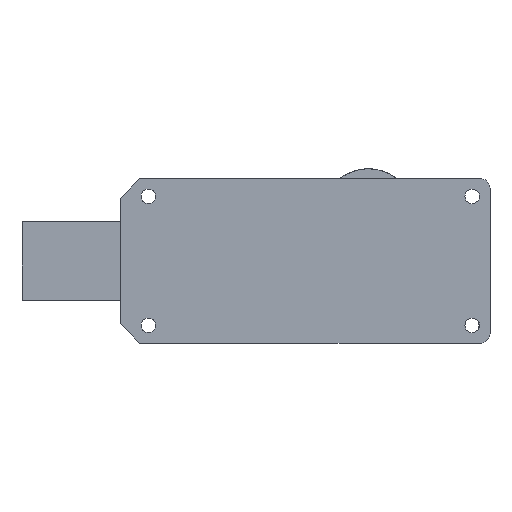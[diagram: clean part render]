
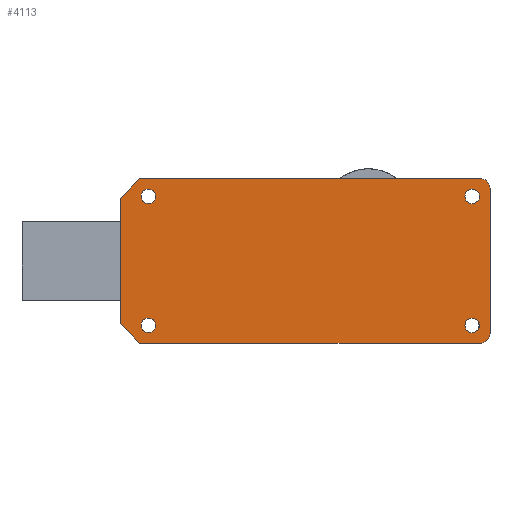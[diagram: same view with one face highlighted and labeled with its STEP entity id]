
A CAD part, front view. The second image highlights one B-rep face of the part: STEP entity #4113.
In plain terms, the highlighted planar face has unit normal (0, -1, 0).
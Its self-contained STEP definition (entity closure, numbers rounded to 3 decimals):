
#3770=CARTESIAN_POINT('',(26.6,-0.81,-11.));
#3771=DIRECTION('',(0.,-1.,0.));
#3772=DIRECTION('',(0.,0.,-1.));
#3773=AXIS2_PLACEMENT_3D('',#3770,#3771,#3772);
#3775=DIRECTION('',(1.,0.,0.));
#3776=VECTOR('',#3775,51.7);
#3777=CARTESIAN_POINT('',(-25.1,-0.81,-12.5));
#3778=LINE('',#3777,#3776);
#3779=DIRECTION('',(0.707,0.,-0.707));
#3780=VECTOR('',#3779,4.243);
#3781=CARTESIAN_POINT('',(-28.1,-0.81,-9.5));
#3782=LINE('',#3781,#3780);
#3783=DIRECTION('',(0.,0.,-1.));
#3784=VECTOR('',#3783,19.);
#3785=CARTESIAN_POINT('',(-28.1,-0.81,9.5));
#3786=LINE('',#3785,#3784);
#3787=DIRECTION('',(-0.707,0.,-0.707));
#3788=VECTOR('',#3787,4.243);
#3789=CARTESIAN_POINT('',(-25.1,-0.81,12.5));
#3790=LINE('',#3789,#3788);
#3791=DIRECTION('',(-1.,0.,0.));
#3792=VECTOR('',#3791,51.7);
#3793=CARTESIAN_POINT('',(26.6,-0.81,12.5));
#3794=LINE('',#3793,#3792);
#3795=CARTESIAN_POINT('',(26.6,-0.81,11.));
#3796=DIRECTION('',(0.,-1.,0.));
#3797=DIRECTION('',(1.,0.,0.));
#3798=AXIS2_PLACEMENT_3D('',#3795,#3796,#3797);
#3800=DIRECTION('',(0.,0.,1.));
#3801=VECTOR('',#3800,22.);
#3802=CARTESIAN_POINT('',(28.1,-0.81,-11.));
#3803=LINE('',#3802,#3801);
#3804=CARTESIAN_POINT('',(-23.8,-0.81,-9.8));
#3805=DIRECTION('',(0.,1.,0.));
#3806=DIRECTION('',(1.,0.,0.));
#3807=AXIS2_PLACEMENT_3D('',#3804,#3805,#3806);
#3809=CARTESIAN_POINT('',(-23.8,-0.81,-9.8));
#3810=DIRECTION('',(0.,1.,0.));
#3811=DIRECTION('',(-1.,0.,0.));
#3812=AXIS2_PLACEMENT_3D('',#3809,#3810,#3811);
#3814=CARTESIAN_POINT('',(-23.8,-0.81,9.8));
#3815=DIRECTION('',(0.,1.,0.));
#3816=DIRECTION('',(1.,0.,0.));
#3817=AXIS2_PLACEMENT_3D('',#3814,#3815,#3816);
#3819=CARTESIAN_POINT('',(-23.8,-0.81,9.8));
#3820=DIRECTION('',(0.,1.,0.));
#3821=DIRECTION('',(-1.,0.,0.));
#3822=AXIS2_PLACEMENT_3D('',#3819,#3820,#3821);
#3824=CARTESIAN_POINT('',(25.4,-0.81,-9.8));
#3825=DIRECTION('',(0.,1.,0.));
#3826=DIRECTION('',(1.,0.,0.));
#3827=AXIS2_PLACEMENT_3D('',#3824,#3825,#3826);
#3829=CARTESIAN_POINT('',(25.4,-0.81,-9.8));
#3830=DIRECTION('',(0.,1.,0.));
#3831=DIRECTION('',(-1.,0.,0.));
#3832=AXIS2_PLACEMENT_3D('',#3829,#3830,#3831);
#3834=CARTESIAN_POINT('',(25.4,-0.81,9.8));
#3835=DIRECTION('',(0.,1.,0.));
#3836=DIRECTION('',(1.,0.,0.));
#3837=AXIS2_PLACEMENT_3D('',#3834,#3835,#3836);
#3839=CARTESIAN_POINT('',(25.4,-0.81,9.8));
#3840=DIRECTION('',(0.,1.,0.));
#3841=DIRECTION('',(-1.,0.,0.));
#3842=AXIS2_PLACEMENT_3D('',#3839,#3840,#3841);
#3975=CARTESIAN_POINT('',(-22.7,-0.81,-9.8));
#3977=VERTEX_POINT('',#3975);
#3979=CARTESIAN_POINT('',(-24.9,-0.81,-9.8));
#3981=VERTEX_POINT('',#3979);
#3983=CARTESIAN_POINT('',(-22.7,-0.81,9.8));
#3985=VERTEX_POINT('',#3983);
#3987=CARTESIAN_POINT('',(-24.9,-0.81,9.8));
#3989=VERTEX_POINT('',#3987);
#3991=CARTESIAN_POINT('',(26.5,-0.81,-9.8));
#3993=VERTEX_POINT('',#3991);
#3995=CARTESIAN_POINT('',(24.3,-0.81,-9.8));
#3997=VERTEX_POINT('',#3995);
#3999=CARTESIAN_POINT('',(26.5,-0.81,9.8));
#4001=VERTEX_POINT('',#3999);
#4003=CARTESIAN_POINT('',(24.3,-0.81,9.8));
#4005=VERTEX_POINT('',#4003);
#4022=CARTESIAN_POINT('',(26.6,-0.81,-12.5));
#4023=CARTESIAN_POINT('',(28.1,-0.81,-11.));
#4024=VERTEX_POINT('',#4022);
#4025=VERTEX_POINT('',#4023);
#4026=CARTESIAN_POINT('',(28.1,-0.81,11.));
#4027=VERTEX_POINT('',#4026);
#4028=CARTESIAN_POINT('',(26.6,-0.81,12.5));
#4029=VERTEX_POINT('',#4028);
#4030=CARTESIAN_POINT('',(-25.1,-0.81,12.5));
#4031=VERTEX_POINT('',#4030);
#4032=CARTESIAN_POINT('',(-28.1,-0.81,9.5));
#4033=VERTEX_POINT('',#4032);
#4034=CARTESIAN_POINT('',(-28.1,-0.81,-9.5));
#4035=VERTEX_POINT('',#4034);
#4036=CARTESIAN_POINT('',(-25.1,-0.81,-12.5));
#4037=VERTEX_POINT('',#4036);
#4068=CARTESIAN_POINT('',(0.,-0.81,0.));
#4069=DIRECTION('',(0.,-1.,0.));
#4070=DIRECTION('',(1.,0.,0.));
#4071=AXIS2_PLACEMENT_3D('',#4068,#4069,#4070);
#4072=PLANE('',#4071);
#4074=ORIENTED_EDGE('',*,*,#4073,.F.);
#4076=ORIENTED_EDGE('',*,*,#4075,.F.);
#4078=ORIENTED_EDGE('',*,*,#4077,.F.);
#4080=ORIENTED_EDGE('',*,*,#4079,.F.);
#4082=ORIENTED_EDGE('',*,*,#4081,.F.);
#4084=ORIENTED_EDGE('',*,*,#4083,.F.);
#4086=ORIENTED_EDGE('',*,*,#4085,.F.);
#4088=ORIENTED_EDGE('',*,*,#4087,.F.);
#4089=EDGE_LOOP('',(#4074,#4076,#4078,#4080,#4082,#4084,#4086,#4088));
#4090=FACE_OUTER_BOUND('',#4089,.F.);
#4092=ORIENTED_EDGE('',*,*,#4091,.F.);
#4094=ORIENTED_EDGE('',*,*,#4093,.F.);
#4095=EDGE_LOOP('',(#4092,#4094));
#4096=FACE_BOUND('',#4095,.F.);
#4098=ORIENTED_EDGE('',*,*,#4097,.F.);
#4100=ORIENTED_EDGE('',*,*,#4099,.F.);
#4101=EDGE_LOOP('',(#4098,#4100));
#4102=FACE_BOUND('',#4101,.F.);
#4104=ORIENTED_EDGE('',*,*,#4103,.F.);
#4106=ORIENTED_EDGE('',*,*,#4105,.F.);
#4107=EDGE_LOOP('',(#4104,#4106));
#4108=FACE_BOUND('',#4107,.F.);
#4109=ORIENTED_EDGE('',*,*,#4060,.F.);
#4110=ORIENTED_EDGE('',*,*,#4049,.F.);
#4111=EDGE_LOOP('',(#4109,#4110));
#4112=FACE_BOUND('',#4111,.F.);
#4113=ADVANCED_FACE('',(#4090,#4096,#4102,#4108,#4112),#4072,.T.);
#3774=CIRCLE('',#3773,1.5);
#3799=CIRCLE('',#3798,1.5);
#3808=CIRCLE('',#3807,1.1);
#3813=CIRCLE('',#3812,1.1);
#3818=CIRCLE('',#3817,1.1);
#3823=CIRCLE('',#3822,1.1);
#3828=CIRCLE('',#3827,1.1);
#3833=CIRCLE('',#3832,1.1);
#3838=CIRCLE('',#3837,1.1);
#3843=CIRCLE('',#3842,1.1);
#4049=EDGE_CURVE('',#4005,#4001,#3843,.T.);
#4060=EDGE_CURVE('',#4001,#4005,#3838,.T.);
#4073=EDGE_CURVE('',#4024,#4025,#3774,.T.);
#4075=EDGE_CURVE('',#4037,#4024,#3778,.T.);
#4077=EDGE_CURVE('',#4035,#4037,#3782,.T.);
#4079=EDGE_CURVE('',#4033,#4035,#3786,.T.);
#4081=EDGE_CURVE('',#4031,#4033,#3790,.T.);
#4083=EDGE_CURVE('',#4029,#4031,#3794,.T.);
#4085=EDGE_CURVE('',#4027,#4029,#3799,.T.);
#4087=EDGE_CURVE('',#4025,#4027,#3803,.T.);
#4091=EDGE_CURVE('',#3977,#3981,#3808,.T.);
#4093=EDGE_CURVE('',#3981,#3977,#3813,.T.);
#4097=EDGE_CURVE('',#3985,#3989,#3818,.T.);
#4099=EDGE_CURVE('',#3989,#3985,#3823,.T.);
#4103=EDGE_CURVE('',#3993,#3997,#3828,.T.);
#4105=EDGE_CURVE('',#3997,#3993,#3833,.T.);
